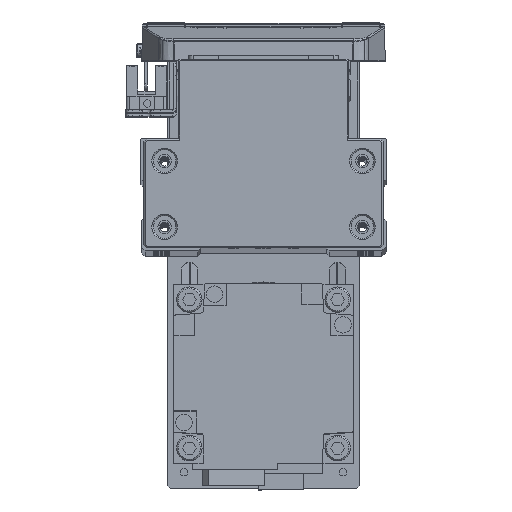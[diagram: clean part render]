
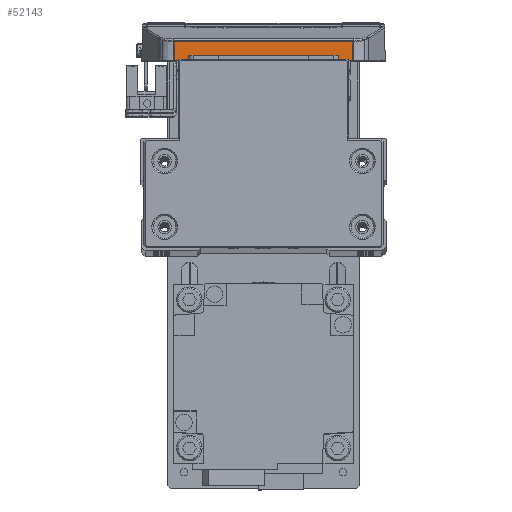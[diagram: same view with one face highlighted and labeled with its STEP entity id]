
A CAD part, top view. The second image highlights one B-rep face of the part: STEP entity #52143.
In plain terms, the highlighted planar face has unit normal (0, 0.018, 1) as drawn and (0, 0.017, -1) by its records, which use the part's own axes.
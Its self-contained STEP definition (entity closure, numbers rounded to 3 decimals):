
#398 = CARTESIAN_POINT ( 'NONE',  ( 29.994, 65., -289.18 ) ) ;
#1270 = ORIENTED_EDGE ( 'NONE', *, *, #17922, .T. ) ;
#1350 = VERTEX_POINT ( 'NONE', #4770 ) ;
#3024 = VERTEX_POINT ( 'NONE', #18690 ) ;
#3401 = DIRECTION ( 'NONE',  ( -0.574, -0.819, -0.014 ) ) ;
#4519 = VERTEX_POINT ( 'NONE', #16394 ) ;
#4770 = CARTESIAN_POINT ( 'NONE',  ( 23.85, 66.5, -289.154 ) ) ;
#5005 = ORIENTED_EDGE ( 'NONE', *, *, #30044, .T. ) ;
#6169 = LINE ( 'NONE', #35912, #40924 ) ;
#7630 = VERTEX_POINT ( 'NONE', #46671 ) ;
#7640 = DIRECTION ( 'NONE',  ( 0., -1., -0.017 ) ) ;
#8794 = DIRECTION ( 'NONE',  ( -1., 0., 0. ) ) ;
#9033 = CARTESIAN_POINT ( 'NONE',  ( 24.076, 66.178, -289.16 ) ) ;
#10860 = CARTESIAN_POINT ( 'NONE',  ( 24.9, 65., -289.18 ) ) ;
#11760 = CARTESIAN_POINT ( 'NONE',  ( 40.25, 65., -289.18 ) ) ;
#12729 = AXIS2_PLACEMENT_3D ( 'NONE', #35881, #13589, #14153 ) ;
#12782 = VERTEX_POINT ( 'NONE', #10860 ) ;
#13589 = DIRECTION ( 'NONE',  ( 0., 0.017, -1. ) ) ;
#14153 = DIRECTION ( 'NONE',  ( 0., 1., 0.017 ) ) ;
#15393 = ORIENTED_EDGE ( 'NONE', *, *, #52060, .T. ) ;
#15526 = EDGE_LOOP ( 'NONE', ( #55705, #1270, #35873, #5005, #46437, #27728, #32769, #15393 ) ) ;
#15540 = DIRECTION ( 'NONE',  ( 0., -1., -0.017 ) ) ;
#16394 = CARTESIAN_POINT ( 'NONE',  ( -30.294, 65., -289.18 ) ) ;
#16461 = VECTOR ( 'NONE', #44104, 1000. ) ;
#17922 = EDGE_CURVE ( 'NONE', #3024, #52545, #19550, .T. ) ;
#18690 = CARTESIAN_POINT ( 'NONE',  ( -30.294, 71.808, -289.061 ) ) ;
#19550 = LINE ( 'NONE', #43053, #51008 ) ;
#20699 = LINE ( 'NONE', #11760, #25471 ) ;
#25317 = CARTESIAN_POINT ( 'NONE',  ( 29.994, 77.5, -288.962 ) ) ;
#25471 = VECTOR ( 'NONE', #8794, 1000. ) ;
#27728 = ORIENTED_EDGE ( 'NONE', *, *, #35945, .T. ) ;
#29875 = EDGE_CURVE ( 'NONE', #3024, #4519, #44634, .T. ) ;
#30027 = DIRECTION ( 'NONE',  ( 1., 0., 0. ) ) ;
#30044 = EDGE_CURVE ( 'NONE', #36825, #12782, #20699, .T. ) ;
#30362 = DIRECTION ( 'NONE',  ( -0.574, 0.819, 0.014 ) ) ;
#30923 = CARTESIAN_POINT ( 'NONE',  ( 40.25, 65., -289.18 ) ) ;
#31017 = VERTEX_POINT ( 'NONE', #39544 ) ;
#31151 = DIRECTION ( 'NONE',  ( -1., 0., 0. ) ) ;
#31872 = VECTOR ( 'NONE', #3401, 1000. ) ;
#32121 = CARTESIAN_POINT ( 'NONE',  ( -30.294, 77.5, -288.962 ) ) ;
#32769 = ORIENTED_EDGE ( 'NONE', *, *, #35678, .T. ) ;
#32832 = FACE_OUTER_BOUND ( 'NONE', #15526, .T. ) ;
#35307 = PLANE ( 'NONE',  #12729 ) ;
#35678 = EDGE_CURVE ( 'NONE', #31017, #7630, #43523, .T. ) ;
#35873 = ORIENTED_EDGE ( 'NONE', *, *, #56176, .T. ) ;
#35881 = CARTESIAN_POINT ( 'NONE',  ( 40.25, 77.5, -288.962 ) ) ;
#35912 = CARTESIAN_POINT ( 'NONE',  ( 40.25, 66.5, -289.154 ) ) ;
#35945 = EDGE_CURVE ( 'NONE', #1350, #31017, #6169, .T. ) ;
#36825 = VERTEX_POINT ( 'NONE', #398 ) ;
#38621 = VECTOR ( 'NONE', #7640, 1000. ) ;
#39544 = CARTESIAN_POINT ( 'NONE',  ( -24.15, 66.5, -289.154 ) ) ;
#40522 = VECTOR ( 'NONE', #15540, 1000. ) ;
#40924 = VECTOR ( 'NONE', #31151, 1000. ) ;
#42026 = LINE ( 'NONE', #25317, #38621 ) ;
#43053 = CARTESIAN_POINT ( 'NONE',  ( 40.25, 71.808, -289.061 ) ) ;
#43523 = LINE ( 'NONE', #47011, #31872 ) ;
#43802 = LINE ( 'NONE', #9033, #54004 ) ;
#44104 = DIRECTION ( 'NONE',  ( -1., 0., 0. ) ) ;
#44634 = LINE ( 'NONE', #32121, #40522 ) ;
#46437 = ORIENTED_EDGE ( 'NONE', *, *, #52029, .T. ) ;
#46671 = CARTESIAN_POINT ( 'NONE',  ( -25.2, 65., -289.18 ) ) ;
#47011 = CARTESIAN_POINT ( 'NONE',  ( 2.201, 104.134, -288.497 ) ) ;
#47117 = CARTESIAN_POINT ( 'NONE',  ( 29.994, 71.808, -289.061 ) ) ;
#49908 = LINE ( 'NONE', #30923, #16461 ) ;
#51008 = VECTOR ( 'NONE', #30027, 1000. ) ;
#52029 = EDGE_CURVE ( 'NONE', #12782, #1350, #43802, .T. ) ;
#52060 = EDGE_CURVE ( 'NONE', #7630, #4519, #49908, .T. ) ;
#52143 = ADVANCED_FACE ( 'NONE', ( #32832 ), #35307, .T. ) ;
#52545 = VERTEX_POINT ( 'NONE', #47117 ) ;
#54004 = VECTOR ( 'NONE', #30362, 1000. ) ;
#55705 = ORIENTED_EDGE ( 'NONE', *, *, #29875, .F. ) ;
#56176 = EDGE_CURVE ( 'NONE', #52545, #36825, #42026, .T. ) ;
